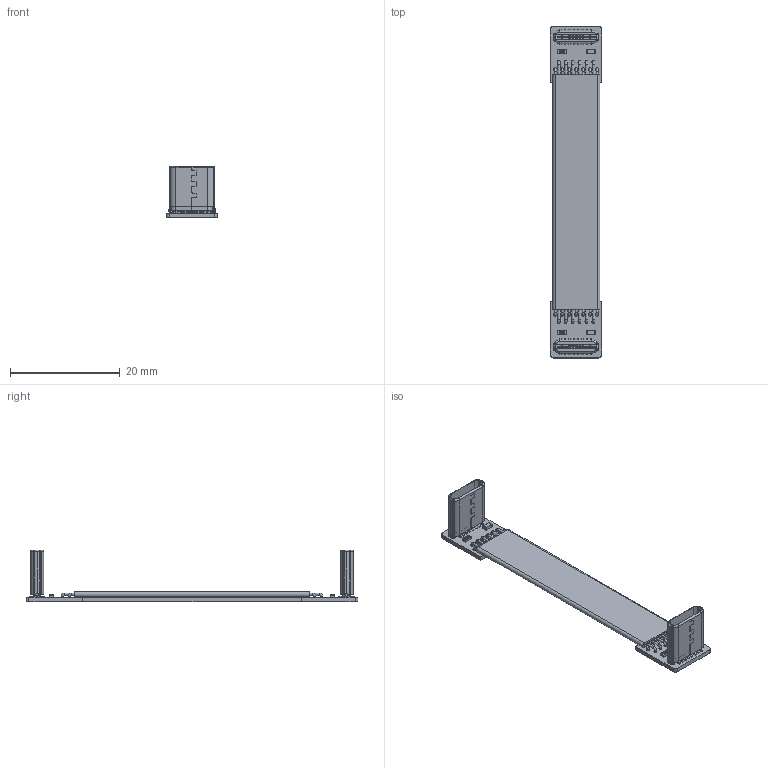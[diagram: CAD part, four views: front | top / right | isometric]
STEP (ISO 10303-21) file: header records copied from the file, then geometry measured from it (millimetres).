
FILE_DESCRIPTION(('Open CASCADE Model'),'2;1');
FILE_NAME('Open CASCADE Shape Model','2023-07-11T16:06:11',('Author'),( 'Open CASCADE'),'Open CASCADE STEP processor 6.8','Open CASCADE 6.8' ,'Unknown');
FILE_SCHEMA(('AUTOMOTIVE_DESIGN { 1 0 10303 214 1 1 1 1 }'));
Length unit declared in the file: millimetre
Products named in the file (45): PCB; Board; Open CASCADE STEP translator 6.8 12.1.1; Open CASCADE STEP translator 6.8 12.2; C0603_060; Designator11_1; TYPE-C16_H=8.65_20230625(1); Open CASCADE STEP translator 6.8 12.4; 0603_RES; Capsule; Encapsulation; TopCover; _1; Designator11; Free-Models; cable13-US2A
Assembly tree (50 placements, depth 4):
  PCB
    Board
      Open CASCADE STEP translator 6.8 12.1.1
    Open CASCADE STEP translator 6.8 12.2
      C0603_060
      C0603_060
      C0603_060
    Designator11_1
      TYPE-C16_H=8.65_20230625(1)
    Open CASCADE STEP translator 6.8 12.4
      0603_RES
        Capsule
        Encapsulation  x2
        TopCover
    _1
      C0603_060
      C0603_060
      C0603_060
    Designator11
      TYPE-C16_H=8.65_20230625(1)
    _1
      0603_RES
        Capsule
        Encapsulation  x2
        TopCover
    Free-Models
      cable13-US2A
      cable13-US2A
      cable13-US2A
      cable13-US2A
      cable13-US2A
      cable13-US2A
      cable13-US2A
      cable13-US2A
      cable13-US2A
      cable13-US2A
      cable13-US2A
      cable13-US2A
      cable13-US2A
      cable13-US2A
      cable13-US2A
      cable13-US2A
      cable13-US2A
      cable13-US2A
      cable13-US2A
      cable13-US2A
      cable13-US2A
      cable13-US2A
      cable13-US2A
      cable13-US2A
      cable13-US2A
      cable13-US2A
      cable13-US2A
Bounding box: 9.33 x 60.58 x 9.47 mm (x, y, z)
Volume: 633.8 mm3; surface area: 3382.5 mm2
Topology: 114 solids, 114 shells, 2111 faces, 5443 edges, 3558 vertices
Faces by surface type: plane 1200, cylinder 637, bspline 220, torus 38, sphere 16
Full cylindrical faces by diameter (mm): 0.4 x65, 0.55 x26
Entity records: 41093 total; most frequent: CARTESIAN_POINT 9373, ORIENTED_EDGE 5786, DIRECTION 5408, EDGE_CURVE 2893, VERTEX_POINT 1890, AXIS2_PLACEMENT_3D 1807, LINE 1794, VECTOR 1794
